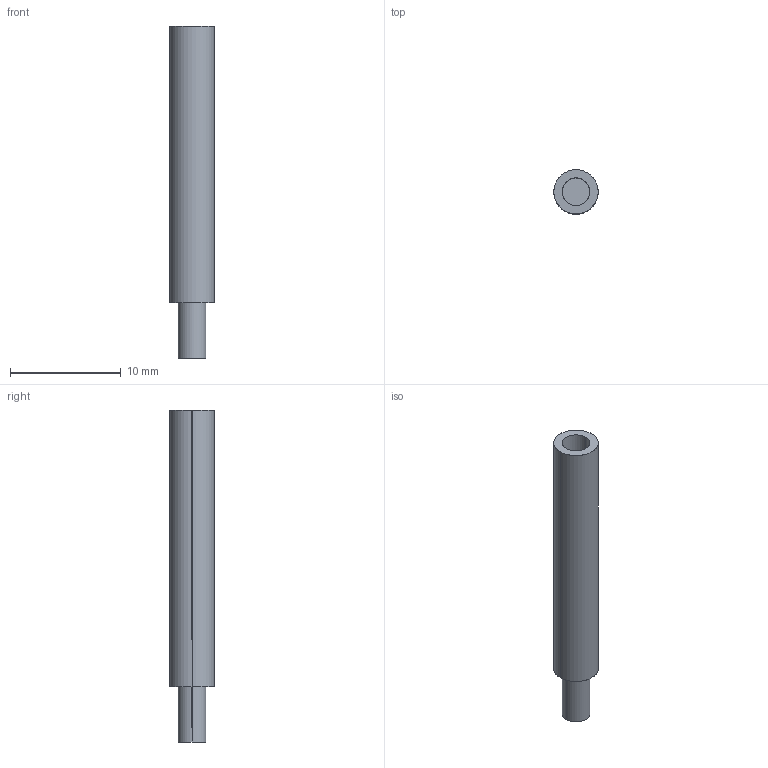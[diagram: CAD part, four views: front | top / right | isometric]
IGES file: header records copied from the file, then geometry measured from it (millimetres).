
Start section: SolidWorks IGES file using analytic representation for surfaces
Global section: file name: C:\Users\panasonic\Desktop\catalog\3d\tr-j104\tr-j104.IGS; native system: SolidWorks 2014; preprocessor: SolidWorks 2014; author: C0909; date: 161007.142822; units: millimetre
Bounding box: 4 x 4 x 30 mm (x, y, z)
Surface area: 433.5 mm2 (no closed solid volume)
Topology: 0 solids, 0 shells, 10 faces, 216 edges, 216 vertices
Faces by surface type: revolution 6, bspline 4
